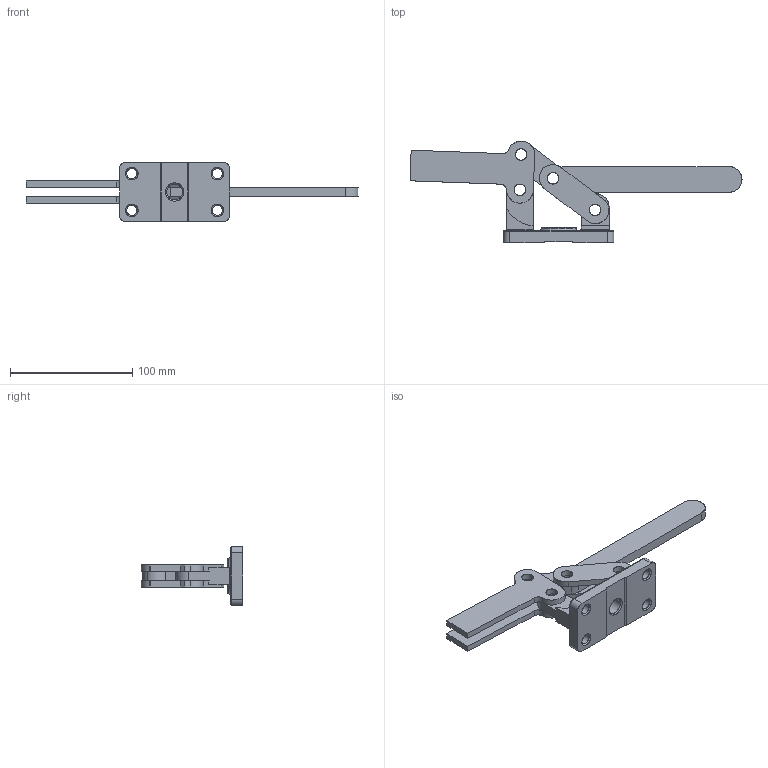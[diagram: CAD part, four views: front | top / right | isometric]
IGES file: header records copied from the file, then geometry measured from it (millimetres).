
Start section: Comment
Global section: file name: 204g.igs; native system:  By Spatial Corp.; preprocessor: XPlus PS/IGES 3.0; author: Author; organization: Title; date: 20050217.080736; units: inch
Bounding box: 271.31 x 83.23 x 48 mm (x, y, z)
Surface area: 49652.6 mm2 (no closed solid volume)
Topology: 0 solids, 0 shells, 160 faces, 810 edges, 810 vertices
Faces by surface type: revolution 111, extrusion 49
